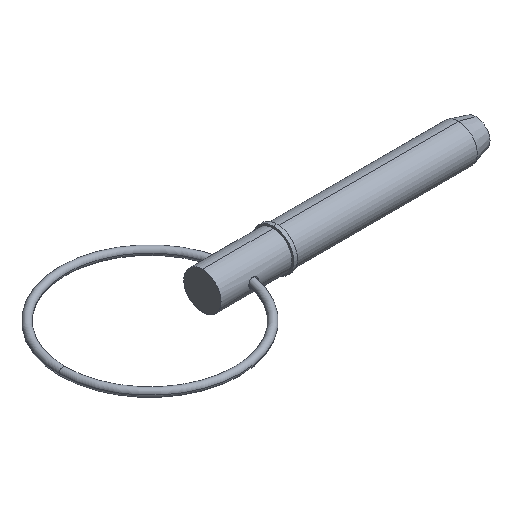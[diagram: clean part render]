
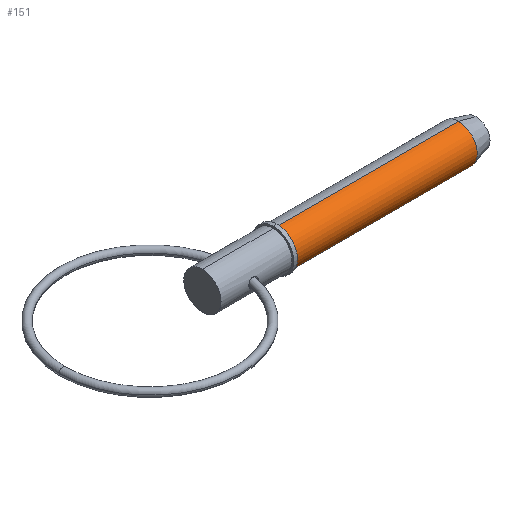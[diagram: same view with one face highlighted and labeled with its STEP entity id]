
A CAD part, isometric view. The second image highlights one B-rep face of the part: STEP entity #151.
In plain terms, the highlighted cylindrical face has radius 4.765 mm (diameter 9.53 mm), a partial arc.
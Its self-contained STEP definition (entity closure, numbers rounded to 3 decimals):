
#14 = DIRECTION ( 'NONE',  ( 1., 0., 0. ) ) ;
#34 = CIRCLE ( 'NONE', #523, 4.765 ) ;
#49 = ORIENTED_EDGE ( 'NONE', *, *, #548, .F. ) ;
#58 = ORIENTED_EDGE ( 'NONE', *, *, #767, .T. ) ;
#59 = DIRECTION ( 'NONE',  ( 1., 0., 0. ) ) ;
#89 = CARTESIAN_POINT ( 'NONE',  ( 0., 0., 0. ) ) ;
#151 = ADVANCED_FACE ( 'NONE', ( #879 ), #629, .T. ) ;
#224 = DIRECTION ( 'NONE',  ( 1., 0., 0. ) ) ;
#234 = EDGE_LOOP ( 'NONE', ( #827, #58, #494, #49 ) ) ;
#256 = CARTESIAN_POINT ( 'NONE',  ( 19.05, 0., -4.765 ) ) ;
#303 = LINE ( 'NONE', #616, #998 ) ;
#309 = DIRECTION ( 'NONE',  ( 0., 0., -1. ) ) ;
#332 = DIRECTION ( 'NONE',  ( 0., 0., -1. ) ) ;
#393 = DIRECTION ( 'NONE',  ( 0., 0., -1. ) ) ;
#404 = CARTESIAN_POINT ( 'NONE',  ( 19.05, 0., 0. ) ) ;
#455 = VECTOR ( 'NONE', #59, 1000. ) ;
#494 = ORIENTED_EDGE ( 'NONE', *, *, #1002, .T. ) ;
#523 = AXIS2_PLACEMENT_3D ( 'NONE', #404, #873, #332 ) ;
#528 = CARTESIAN_POINT ( 'NONE',  ( 65.404, 0., 0. ) ) ;
#533 = VERTEX_POINT ( 'NONE', #926 ) ;
#548 = EDGE_CURVE ( 'NONE', #533, #625, #850, .T. ) ;
#573 = VERTEX_POINT ( 'NONE', #256 ) ;
#616 = CARTESIAN_POINT ( 'NONE',  ( 0., 0., -4.765 ) ) ;
#625 = VERTEX_POINT ( 'NONE', #793 ) ;
#629 = CYLINDRICAL_SURFACE ( 'NONE', #848, 4.765 ) ;
#683 = CARTESIAN_POINT ( 'NONE',  ( 0., 0., 4.765 ) ) ;
#762 = LINE ( 'NONE', #683, #455 ) ;
#767 = EDGE_CURVE ( 'NONE', #923, #573, #34, .T. ) ;
#793 = CARTESIAN_POINT ( 'NONE',  ( 65.404, 0., -4.765 ) ) ;
#827 = ORIENTED_EDGE ( 'NONE', *, *, #965, .F. ) ;
#848 = AXIS2_PLACEMENT_3D ( 'NONE', #89, #14, #393 ) ;
#850 = CIRCLE ( 'NONE', #862, 4.765 ) ;
#862 = AXIS2_PLACEMENT_3D ( 'NONE', #528, #224, #309 ) ;
#873 = DIRECTION ( 'NONE',  ( 1., 0., 0. ) ) ;
#879 = FACE_OUTER_BOUND ( 'NONE', #234, .T. ) ;
#894 = CARTESIAN_POINT ( 'NONE',  ( 19.05, 0., 4.765 ) ) ;
#923 = VERTEX_POINT ( 'NONE', #894 ) ;
#926 = CARTESIAN_POINT ( 'NONE',  ( 65.404, 0., 4.765 ) ) ;
#965 = EDGE_CURVE ( 'NONE', #923, #533, #762, .T. ) ;
#989 = DIRECTION ( 'NONE',  ( 1., 0., 0. ) ) ;
#998 = VECTOR ( 'NONE', #989, 1000. ) ;
#1002 = EDGE_CURVE ( 'NONE', #573, #625, #303, .T. ) ;
